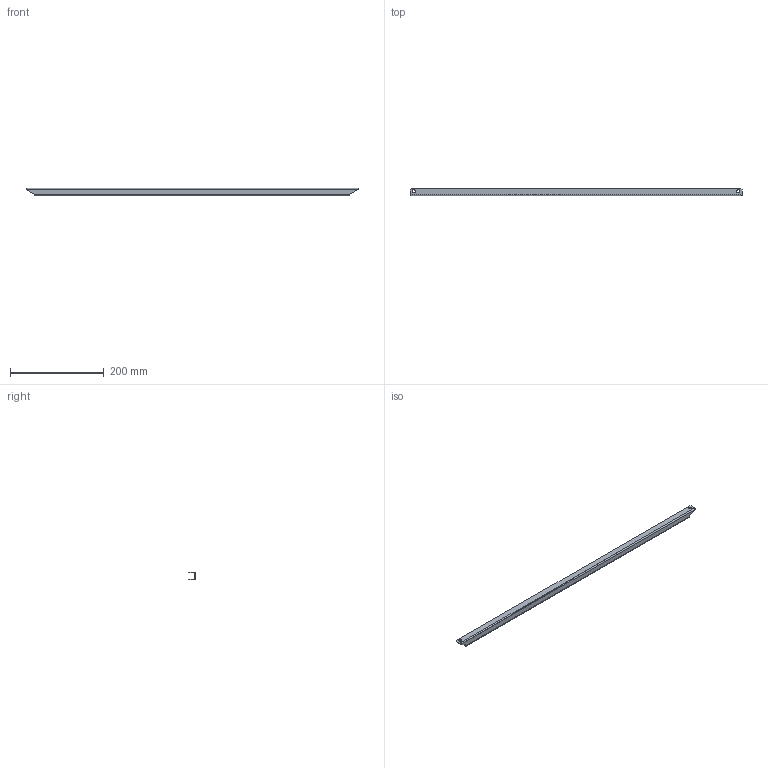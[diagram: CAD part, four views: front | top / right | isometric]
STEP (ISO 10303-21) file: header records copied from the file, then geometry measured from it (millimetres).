
FILE_DESCRIPTION (( 'STEP AP203' ), '1' );
FILE_NAME ('VB 80 Ðåéêà.STEP', '2012-11-15T06:57:09', ( 'Àëåêñàíäð' ), ( 'Ïðîâåíòî' ), 'SwSTEP 2.0', 'SolidWorks 2012', '' );
FILE_SCHEMA (( 'CONFIG_CONTROL_DESIGN' ));
Length unit declared in the file: millimetre
Products named in the file (1): VB 80 Ðåéêà
Bounding box: 710 x 15 x 15.5 mm (x, y, z)
Volume: 33996.4 mm3; surface area: 58893.9 mm2
Topology: 1 solids, 1 shells, 84 faces, 246 edges, 164 vertices
Faces by surface type: cylinder 66, plane 18
Entity records: 3083 total; most frequent: DIRECTION 544, CARTESIAN_POINT 531, ORIENTED_EDGE 492, EDGE_CURVE 246, AXIS2_PLACEMENT_3D 217, VERTEX_POINT 164, EDGE_LOOP 142, CIRCLE 132
